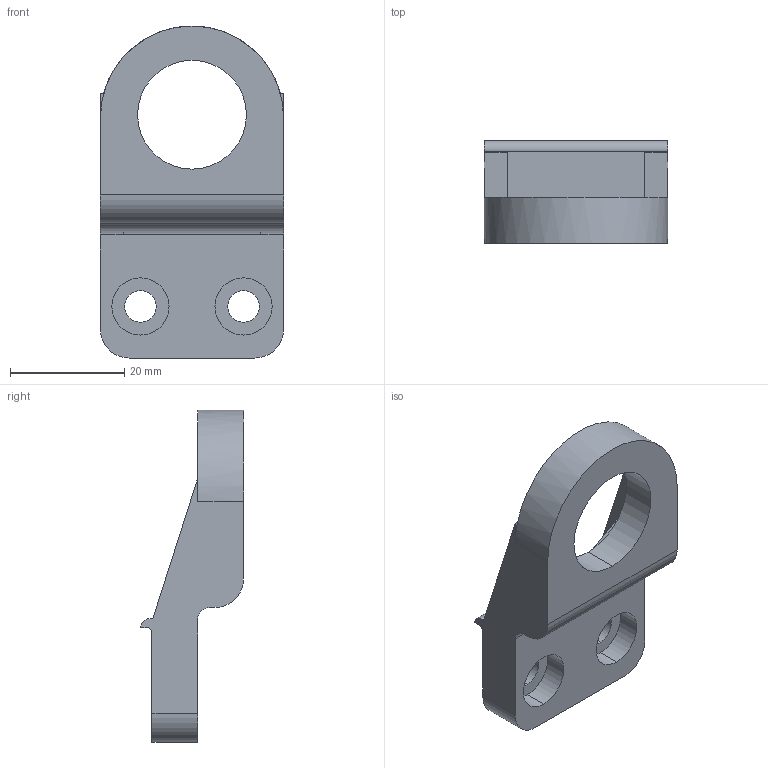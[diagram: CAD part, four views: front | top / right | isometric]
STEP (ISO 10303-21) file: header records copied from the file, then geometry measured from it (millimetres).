
FILE_DESCRIPTION (( 'STEP AP203' ), '1' );
FILE_NAME ('F043201.STEP', '2017-03-22T12:57:32', ( 'Localadmin' ), ( 'Microsoft' ), 'SwSTEP 2.0', 'SolidWorks 2016', '' );
FILE_SCHEMA (( 'CONFIG_CONTROL_DESIGN' ));
Length unit declared in the file: millimetre
Products named in the file (1): F043201
Bounding box: 32 x 18 x 58 mm (x, y, z)
Surface area: 5849.7 mm2 (no closed solid volume)
Topology: 0 solids, 1 shells, 48 faces, 125 edges, 82 vertices
Faces by surface type: plane 27, cylinder 21
Entity records: 1570 total; most frequent: DIRECTION 267, CARTESIAN_POINT 256, ORIENTED_EDGE 246, EDGE_CURVE 125, AXIS2_PLACEMENT_3D 93, VERTEX_POINT 82, VECTOR 81, LINE 81
